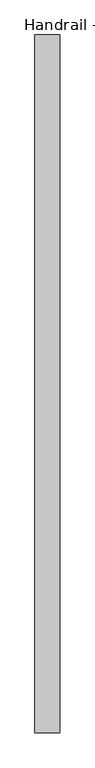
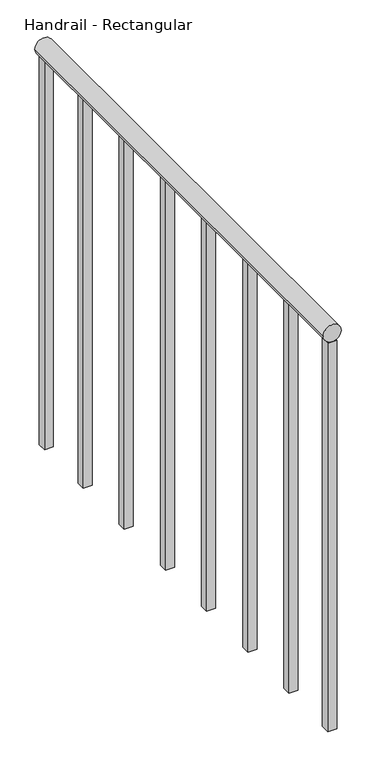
"""IFC4 building model written with IfcOpenShell, lengths in millimetres: railing geometry, Handrail - Rectangular."""

from ifc_helpers import new_model, si_unit, point, frame, frame_2d, origin, place, context, project, spatial, polyline, circle_curve, trimmed, segment, composite_curve, outline, extrude, source, transform, mapped, element, save


def handrail_rectangular_a0c948d2(model_context):
    return source(origin(), model_context, "Body", "SweptSolid", [
        extrude(outline(composite_curve([segment(trimmed(circle_curve(frame_2d((3943.35, 2297.1410437)), 19.05), [point((3943.35, 2316.1910437))], [point((3943.35, 2278.0910437))], False, "CARTESIAN"), True, "CONTINUOUS"), segment(trimmed(circle_curve(frame_2d((3943.35, 2297.1410437)), 19.05), [point((3943.35, 2278.0910437))], [point((3943.35, 2316.1910437))], False, "CARTESIAN"), True, "CONTINUOUS")], self_intersect=False)), frame((0.0, -31539.9683133, 0.0), z_axis=(0.0, 1.0, 0.0), x_axis=(0.0, 0.0, 1.0)), (0.0, 0.0, 1.0), 1066.8),
        extrude(outline(polyline([(2287.6160437, -30635.0933133), (2287.6160437, -30616.0433133), (2306.6660437, -30616.0433133), (2306.6660437, -30635.0933133), (2287.6160437, -30635.0933133)])), frame((0.0, 0.0, 3048.0), z_axis=(0.0, 0.0, 1.0), x_axis=(1.0, 0.0, 0.0)), (0.0, 0.0, 1.0), 876.3),
        extrude(outline(polyline([(2287.6160437, -30787.4933133), (2287.6160437, -30768.4433133), (2306.6660437, -30768.4433133), (2306.6660437, -30787.4933133), (2287.6160437, -30787.4933133)])), frame((0.0, 0.0, 3048.0), z_axis=(0.0, 0.0, 1.0), x_axis=(1.0, 0.0, 0.0)), (0.0, 0.0, 1.0), 876.3),
        extrude(outline(polyline([(2287.6160437, -30939.8933133), (2287.6160437, -30920.8433133), (2306.6660437, -30920.8433133), (2306.6660437, -30939.8933133), (2287.6160437, -30939.8933133)])), frame((0.0, 0.0, 3048.0), z_axis=(0.0, 0.0, 1.0), x_axis=(1.0, 0.0, 0.0)), (0.0, 0.0, 1.0), 876.3),
        extrude(outline(polyline([(2287.6160437, -31092.2933133), (2287.6160437, -31073.2433133), (2306.6660437, -31073.2433133), (2306.6660437, -31092.2933133), (2287.6160437, -31092.2933133)])), frame((0.0, 0.0, 3048.0), z_axis=(0.0, 0.0, 1.0), x_axis=(1.0, 0.0, 0.0)), (0.0, 0.0, 1.0), 876.3),
        extrude(outline(polyline([(2287.6160437, -31244.6933133), (2287.6160437, -31225.6433133), (2306.6660437, -31225.6433133), (2306.6660437, -31244.6933133), (2287.6160437, -31244.6933133)])), frame((0.0, 0.0, 3048.0), z_axis=(0.0, 0.0, 1.0), x_axis=(1.0, 0.0, 0.0)), (0.0, 0.0, 1.0), 876.3),
        extrude(outline(polyline([(2287.6160437, -31397.0933133), (2287.6160437, -31378.0433133), (2306.6660437, -31378.0433133), (2306.6660437, -31397.0933133), (2287.6160437, -31397.0933133)])), frame((0.0, 0.0, 3048.0), z_axis=(0.0, 0.0, 1.0), x_axis=(1.0, 0.0, 0.0)), (0.0, 0.0, 1.0), 876.3),
        extrude(outline(polyline([(2287.6160437, -30492.2183133), (2287.6160437, -30473.1683133), (2306.6660437, -30473.1683133), (2306.6660437, -30492.2183133), (2287.6160437, -30492.2183133)])), frame((0.0, 0.0, 3048.0), z_axis=(0.0, 0.0, 1.0), x_axis=(1.0, 0.0, 0.0)), (0.0, 0.0, 1.0), 876.3),
        extrude(outline(polyline([(2287.6160437, -31539.9683133), (2287.6160437, -31520.9183133), (2306.6660437, -31520.9183133), (2306.6660437, -31539.9683133), (2287.6160437, -31539.9683133)])), frame((0.0, 0.0, 3048.0), z_axis=(0.0, 0.0, 1.0), x_axis=(1.0, 0.0, 0.0)), (0.0, 0.0, 1.0), 876.3),
    ])


if __name__ == "__main__":
    model = new_model("IFC4")
    model_context = context("Model", 3, world=origin())
    ifc_project = project(units=[si_unit("LENGTHUNIT", "METRE", prefix="MILLI")], contexts=[model_context])
    site = spatial("IfcSite", under=ifc_project)
    building = spatial("IfcBuilding", under=site)
    placement = place(None, origin())
    handrail_rectangular_shape = handrail_rectangular_a0c948d2(model_context)
    element("IfcRailing", 1, ObjectType="Handrail - Rectangular", at=placement, inside=building, context=model_context, shape_type="MappedRepresentation", body=[
        mapped(handrail_rectangular_shape, transform((0.0, 0.0, 0.0), x_axis=(1.0, 0.0, 0.0), y_axis=(0.0, 1.0, 0.0), z_axis=(0.0, 0.0, 1.0))),
    ])
    save(model, "model.ifc")
